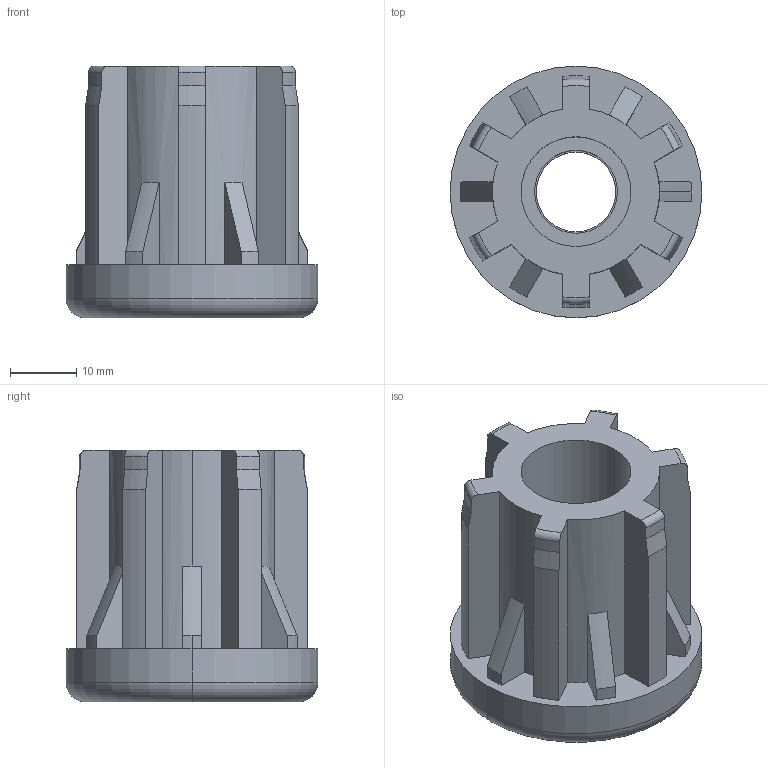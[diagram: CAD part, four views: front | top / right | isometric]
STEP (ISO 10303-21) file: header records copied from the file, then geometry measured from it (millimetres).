
FILE_DESCRIPTION (( 'STEP AP214' ), '1' );
FILE_NAME ('42006438212.STEP', '2020-02-25T17:11:37', ( '' ), ( '' ), 'SwSTEP 2.0', 'SolidWorks 2018', '' );
FILE_SCHEMA (( 'AUTOMOTIVE_DESIGN' ));
Length unit declared in the file: millimetre
Products named in the file (1): 42006438212
Bounding box: 38 x 38 x 38 mm (x, y, z)
Volume: 21685.5 mm3; surface area: 10137.3 mm2
Topology: 2 solids, 2 shells, 94 faces, 255 edges, 168 vertices
Faces by surface type: cylinder 38, plane 31, cone 17, torus 8
Entity records: 3154 total; most frequent: CARTESIAN_POINT 698, DIRECTION 513, ORIENTED_EDGE 510, EDGE_CURVE 255, AXIS2_PLACEMENT_3D 199, VERTEX_POINT 168, VECTOR 115, LINE 115
